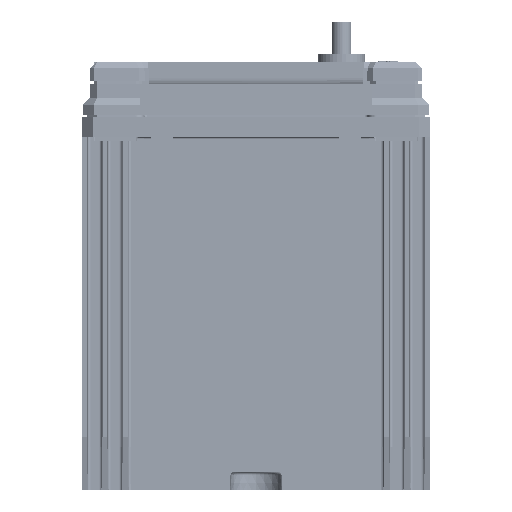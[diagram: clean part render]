
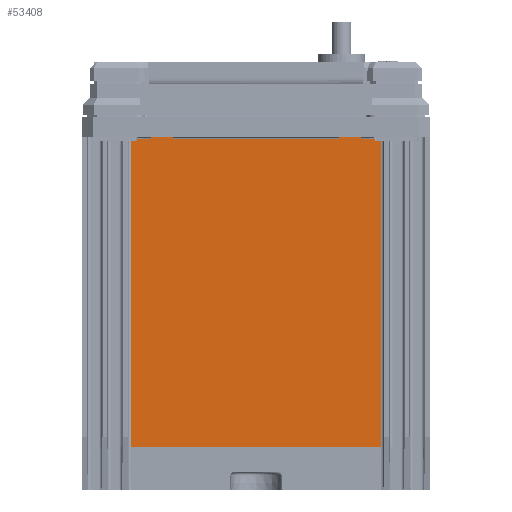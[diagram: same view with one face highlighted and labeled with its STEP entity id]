
A CAD part, left-side view. The second image highlights one B-rep face of the part: STEP entity #53408.
In plain terms, the highlighted planar face has unit normal (-1, 0, 0).
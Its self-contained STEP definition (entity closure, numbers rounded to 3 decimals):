
#48455=ELLIPSE('',#180242,85.961,1.5);
#48457=ELLIPSE('',#180247,85.961,1.5);
#53408=ADVANCED_FACE('',(#63626),#58568,.F.);
#58568=PLANE('',#181999);
#63626=FACE_OUTER_BOUND('',#94295,.T.);
#74296=LINE('',#254264,#84727);
#74300=LINE('',#254273,#84731);
#74304=LINE('',#254286,#84735);
#74308=LINE('',#254295,#84739);
#74462=LINE('',#254774,#84894);
#74464=LINE('',#254780,#84896);
#74565=LINE('',#255138,#84998);
#74577=LINE('',#255174,#85010);
#74652=LINE('',#255469,#85085);
#74807=LINE('',#255873,#85240);
#74816=LINE('',#255887,#85249);
#74817=LINE('',#255888,#85250);
#74818=LINE('',#255889,#85251);
#74819=LINE('',#255890,#85252);
#84727=VECTOR('',#205137,1.);
#84731=VECTOR('',#205143,1.);
#84735=VECTOR('',#205153,1.);
#84739=VECTOR('',#205159,1.);
#84894=VECTOR('',#205570,1.);
#84896=VECTOR('',#205580,1.);
#84998=VECTOR('',#205918,1.);
#85010=VECTOR('',#205948,1.);
#85085=VECTOR('',#206197,1.);
#85240=VECTOR('',#206578,1.);
#85249=VECTOR('',#206597,1.);
#85250=VECTOR('',#206598,1.);
#85251=VECTOR('',#206599,1.);
#85252=VECTOR('',#206600,1.);
#94295=EDGE_LOOP('',(#117301,#117302,#117303,#117304,#117305,#117306,#117307,
#117308,#117309,#117310,#117311,#117312,#117313,#117314,#117315,#117316));
#117301=ORIENTED_EDGE('',*,*,#153834,.F.);
#117302=ORIENTED_EDGE('',*,*,#156639,.T.);
#117303=ORIENTED_EDGE('',*,*,#155910,.T.);
#117304=ORIENTED_EDGE('',*,*,#156127,.T.);
#117305=ORIENTED_EDGE('',*,*,#155906,.F.);
#117306=ORIENTED_EDGE('',*,*,#156640,.T.);
#117307=ORIENTED_EDGE('',*,*,#155900,.T.);
#117308=ORIENTED_EDGE('',*,*,#156133,.F.);
#117309=ORIENTED_EDGE('',*,*,#155896,.F.);
#117310=ORIENTED_EDGE('',*,*,#156641,.T.);
#117311=ORIENTED_EDGE('',*,*,#153844,.T.);
#117312=ORIENTED_EDGE('',*,*,#156322,.T.);
#117313=ORIENTED_EDGE('',*,*,#156630,.T.);
#117314=ORIENTED_EDGE('',*,*,#156642,.F.);
#117315=ORIENTED_EDGE('',*,*,#156442,.T.);
#117316=ORIENTED_EDGE('',*,*,#156302,.F.);
#139103=VERTEX_POINT('',#246926);
#139105=VERTEX_POINT('',#246931);
#139761=VERTEX_POINT('',#248996);
#139763=VERTEX_POINT('',#249019);
#139772=VERTEX_POINT('',#249041);
#139773=VERTEX_POINT('',#249043);
#141144=VERTEX_POINT('',#254257);
#141147=VERTEX_POINT('',#254263);
#141151=VERTEX_POINT('',#254272);
#141152=VERTEX_POINT('',#254274);
#141153=VERTEX_POINT('',#254278);
#141157=VERTEX_POINT('',#254285);
#141161=VERTEX_POINT('',#254294);
#141162=VERTEX_POINT('',#254296);
#141416=VERTEX_POINT('',#255139);
#141430=VERTEX_POINT('',#255173);
#153834=EDGE_CURVE('',#139763,#139761,#48455,.T.);
#153844=EDGE_CURVE('',#139773,#139772,#48457,.T.);
#155896=EDGE_CURVE('',#141147,#141144,#74296,.T.);
#155900=EDGE_CURVE('',#141152,#141151,#74300,.T.);
#155906=EDGE_CURVE('',#141157,#141153,#74304,.T.);
#155910=EDGE_CURVE('',#141162,#141161,#74308,.T.);
#156127=EDGE_CURVE('',#141161,#141153,#74462,.T.);
#156133=EDGE_CURVE('',#141144,#141151,#74464,.T.);
#156302=EDGE_CURVE('',#139761,#141416,#74565,.T.);
#156322=EDGE_CURVE('',#139772,#141430,#74577,.T.);
#156442=EDGE_CURVE('',#139105,#141416,#74652,.T.);
#156630=EDGE_CURVE('',#141430,#139103,#74807,.T.);
#156639=EDGE_CURVE('',#139763,#141162,#74816,.T.);
#156640=EDGE_CURVE('',#141157,#141152,#74817,.T.);
#156641=EDGE_CURVE('',#141147,#139773,#74818,.T.);
#156642=EDGE_CURVE('',#139105,#139103,#74819,.T.);
#180242=AXIS2_PLACEMENT_3D('',#249020,#201304,#201305);
#180247=AXIS2_PLACEMENT_3D('',#249042,#201322,#201323);
#181999=AXIS2_PLACEMENT_3D('',#255891,#206601,#206602);
#201304=DIRECTION('',(-1.,0.,0.));
#201305=DIRECTION('',(0.,-0.017,-1.));
#201322=DIRECTION('',(1.,0.,0.));
#201323=DIRECTION('',(0.,0.017,-1.));
#205137=DIRECTION('',(0.,0.,1.));
#205143=DIRECTION('',(0.,0.,1.));
#205153=DIRECTION('',(0.,0.,1.));
#205159=DIRECTION('',(0.,0.,1.));
#205570=DIRECTION('',(0.,1.,0.));
#205580=DIRECTION('',(0.,-1.,0.));
#205918=DIRECTION('',(0.,-1.,0.));
#205948=DIRECTION('',(0.,1.,0.));
#206197=DIRECTION('',(0.,0.,1.));
#206578=DIRECTION('',(0.,0.,-1.));
#206597=DIRECTION('',(0.,1.,0.));
#206598=DIRECTION('',(0.,1.,0.));
#206599=DIRECTION('',(0.,1.,0.));
#206600=DIRECTION('',(0.,1.,0.));
#206601=DIRECTION('',(1.,0.,0.));
#206602=DIRECTION('',(0.,0.,-1.));
#246926=CARTESIAN_POINT('',(-460.611,-88.533,-146.641));
#246931=CARTESIAN_POINT('',(-460.611,-211.686,-146.641));
#248996=CARTESIAN_POINT('',(-460.611,-208.871,4.081));
#249019=CARTESIAN_POINT('',(-460.611,-208.816,5.066));
#249020=CARTESIAN_POINT('',(-460.611,-208.11,82.618));
#249041=CARTESIAN_POINT('',(-460.611,-91.349,4.081));
#249042=CARTESIAN_POINT('',(-460.611,-92.11,82.618));
#249043=CARTESIAN_POINT('',(-460.611,-91.403,5.066));
#254257=CARTESIAN_POINT('',(-460.611,-98.41,16.05));
#254263=CARTESIAN_POINT('',(-460.611,-98.41,5.066));
#254264=CARTESIAN_POINT('',(-460.611,-98.41,6.05));
#254272=CARTESIAN_POINT('',(-460.611,-109.41,16.05));
#254273=CARTESIAN_POINT('',(-460.611,-109.41,-0.302));
#254274=CARTESIAN_POINT('',(-460.611,-109.41,5.066));
#254278=CARTESIAN_POINT('',(-460.611,-190.81,16.05));
#254285=CARTESIAN_POINT('',(-460.611,-190.81,5.066));
#254286=CARTESIAN_POINT('',(-460.611,-190.81,-0.302));
#254294=CARTESIAN_POINT('',(-460.611,-201.81,16.05));
#254295=CARTESIAN_POINT('',(-460.611,-201.81,6.05));
#254296=CARTESIAN_POINT('',(-460.611,-201.81,5.066));
#254774=CARTESIAN_POINT('',(-460.611,-236.11,16.05));
#254780=CARTESIAN_POINT('',(-460.611,-64.11,16.05));
#255138=CARTESIAN_POINT('',(-460.611,119.94,4.081));
#255139=CARTESIAN_POINT('',(-460.611,-211.686,4.081));
#255173=CARTESIAN_POINT('',(-460.611,-88.533,4.081));
#255174=CARTESIAN_POINT('',(-460.611,-146.11,4.081));
#255469=CARTESIAN_POINT('',(-460.611,-211.686,6.05));
#255873=CARTESIAN_POINT('',(-460.611,-88.533,-168.));
#255887=CARTESIAN_POINT('',(-460.611,-201.81,5.066));
#255888=CARTESIAN_POINT('',(-460.611,-109.41,5.066));
#255889=CARTESIAN_POINT('',(-460.611,-91.455,5.066));
#255890=CARTESIAN_POINT('',(-460.611,-146.11,-146.641));
#255891=CARTESIAN_POINT('',(-460.611,-146.11,-0.302));
